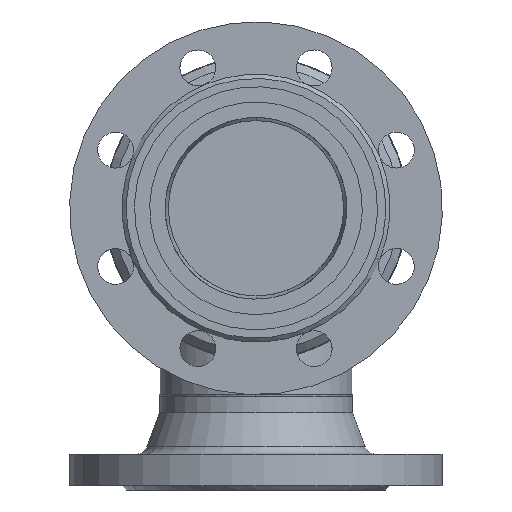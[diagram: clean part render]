
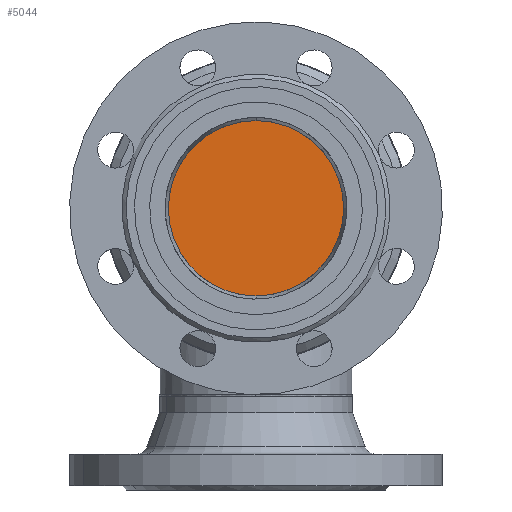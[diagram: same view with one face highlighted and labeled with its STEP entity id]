
A CAD part, front view. The second image highlights one B-rep face of the part: STEP entity #5044.
In plain terms, the highlighted planar face has unit normal (0, -1, 0) as drawn and (0, 0, 1) by its records, which use the part's own axes.
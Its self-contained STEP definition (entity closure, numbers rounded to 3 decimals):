
#2721 = CARTESIAN_POINT ( 'NONE',  ( -70., 0., 14. ) ) ;
#2751 = CIRCLE ( 'NONE', #2752, 70. ) ;
#2752 = AXIS2_PLACEMENT_3D ( 'NONE', #2754, #2755, #2756 ) ;
#2754 = CARTESIAN_POINT ( 'NONE',  ( 0., 0., 14. ) ) ;
#2755 = DIRECTION ( 'NONE',  ( 0., 0., 1. ) ) ;
#2756 = DIRECTION ( 'NONE',  ( 1., 0., 0. ) ) ;
#2822 = CARTESIAN_POINT ( 'NONE',  ( 70., 0., 14. ) ) ;
#3568 = ORIENTED_EDGE ( 'NONE', *, *, #3645, .T. ) ;
#3605 = ORIENTED_EDGE ( 'NONE', *, *, #6409, .T. ) ;
#3645 = EDGE_CURVE ( 'NONE', #4921, #4703, #2751, .T. ) ;
#4703 = VERTEX_POINT ( 'NONE', #2721 ) ;
#4819 = EDGE_LOOP ( 'NONE', ( #3605, #3568 ) ) ;
#4921 = VERTEX_POINT ( 'NONE', #2822 ) ;
#5044 = ADVANCED_FACE ( 'NONE', ( #5660 ), #5661, .T. ) ;
#5660 = FACE_OUTER_BOUND ( 'NONE', #4819, .T. ) ;
#5661 = PLANE ( 'NONE',  #5662 ) ;
#5662 = AXIS2_PLACEMENT_3D ( 'NONE', #5663, #5667, #5668 ) ;
#5663 = CARTESIAN_POINT ( 'NONE',  ( 0., 0., 14. ) ) ;
#5667 = DIRECTION ( 'NONE',  ( 0., 0., 1. ) ) ;
#5668 = DIRECTION ( 'NONE',  ( 1., 0., 0. ) ) ;
#6409 = EDGE_CURVE ( 'NONE', #4703, #4921, #7904, .T. ) ;
#7904 = CIRCLE ( 'NONE', #7905, 70. ) ;
#7905 = AXIS2_PLACEMENT_3D ( 'NONE', #7906, #7907, #7908 ) ;
#7906 = CARTESIAN_POINT ( 'NONE',  ( 0., 0., 14. ) ) ;
#7907 = DIRECTION ( 'NONE',  ( 0., 0., 1. ) ) ;
#7908 = DIRECTION ( 'NONE',  ( 1., 0., 0. ) ) ;
